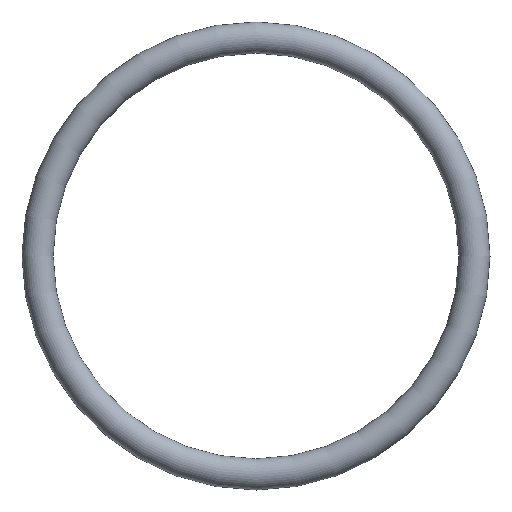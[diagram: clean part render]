
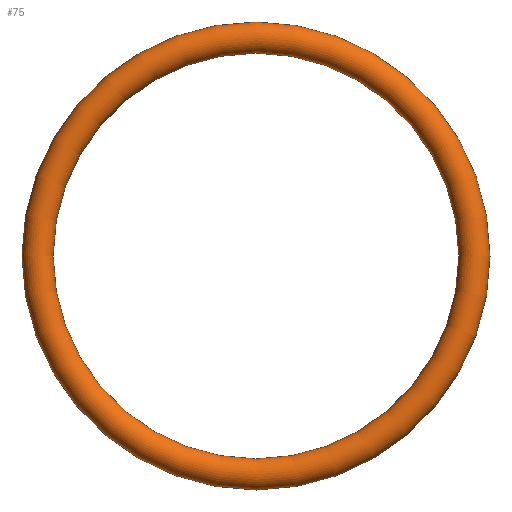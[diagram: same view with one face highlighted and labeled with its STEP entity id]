
A CAD part, front view. The second image highlights one B-rep face of the part: STEP entity #75.
In plain terms, the highlighted toroidal (fillet/blend) face has major radius 28 mm and minor radius 2 mm.
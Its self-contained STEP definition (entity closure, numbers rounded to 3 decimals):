
#75 = ADVANCED_FACE( '', ( #77 ), #78, .T. );
#77 = FACE_BOUND( '', #79, .T. );
#78 = TOROIDAL_SURFACE( '', #80, 28., 2. );
#79 = VERTEX_LOOP( '', #81 );
#80 = AXIS2_PLACEMENT_3D( '', #82, #83, #84 );
#81 = VERTEX_POINT( '', #85 );
#82 = CARTESIAN_POINT( '', ( 0., 0., 0. ) );
#83 = DIRECTION( '', ( 0., -1., 0. ) );
#84 = DIRECTION( '', ( 0., 0., -1. ) );
#85 = CARTESIAN_POINT( '', ( 0., 0., -30. ) );
